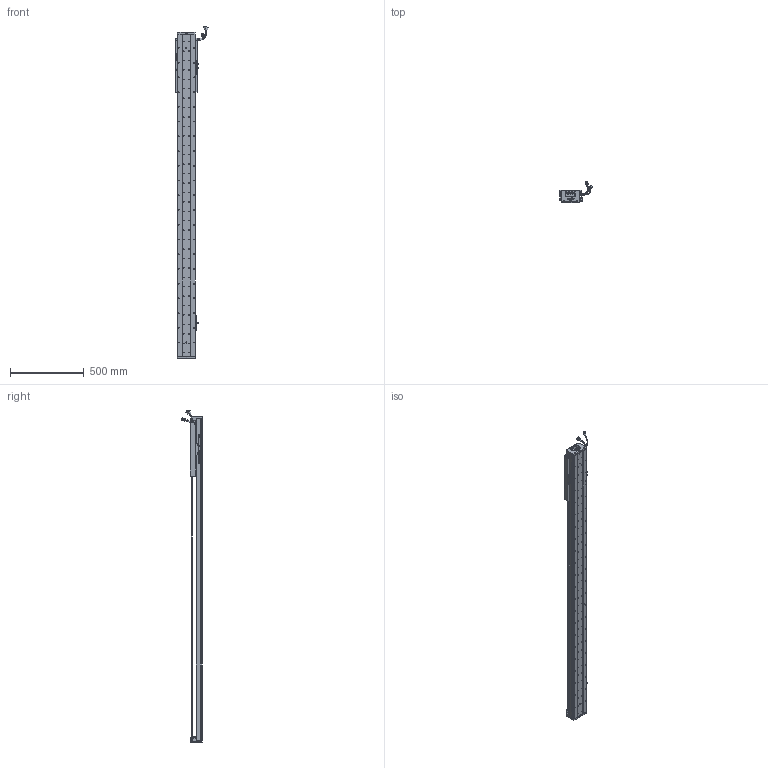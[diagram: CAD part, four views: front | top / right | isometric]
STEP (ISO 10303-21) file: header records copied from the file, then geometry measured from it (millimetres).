
FILE_DESCRIPTION (( 'STEP AP203' ), '1' );
FILE_NAME ('Z5-RY120D-1-L500-B-K.SLDASM_1750.step', '2021-05-17T06:23:48', ( '盈信电脑' ), ( '东莞市道滘镇水果街19号' ), 'SwSTEP 2.0', 'SolidWorks 2016', '' );
FILE_SCHEMA (( 'CONFIG_CONTROL_DESIGN' ));
Length unit declared in the file: millimetre
Products named in the file (37): SCALE-Part-1; SHIELDPLATE; SCREW-M1.6; SEAL; SCALE-Part-2; RY100FB-遵嫖萇覜茼え; 覜茼ん672; PSLH080_PSLF2; HOLDER0; Z-RY120D詩湍奻揤裔; COVER; SCREW-M1.7-1; HARNESS-Part-2; Z5-RY120D-1-L500-B-K.SLDASM_1750; COVER-Part-1; Z-120詩湍傷裔啣; 140蚥薯蝶輸; PBU_SHEET; Z5-RY120铝滑块（21款）; Z5-RY120-L500詩湍100mm遵_1750; HARNESS-Part-1; 120-Z-臏賑輸盄裔(21遴); HARNESS; SEAL-Part-1; LABEL-Part-1; 672嫖萇羲壽假蚾釱; Z-RY120D詩湍狟揤裔; 080黍杅芛假蚾釱21遴; 榋妏寠巭燃_暯_M2_2; LABEL; SCREW-M1.6-2; Z5-RY120-500-倰第菁釱_1750; SCALE; SCREW-M1.6-1; 140雄赽晤鎢ん堤盄; SCREW-M1.7; SCREW-M1.6-3
Assembly tree (43 placements, depth 4):
  Z5-RY120D-1-L500-B-K.SLDASM_1750
    Z5-RY120-500-倰第菁釱_1750
    覜茼ん672  x3
    672嫖萇羲壽假蚾釱  x2
    Z5-RY120铝滑块（21款）
    PSLH080_PSLF2
      SCALE
        SCALE-Part-1
        SCALE-Part-2
      HARNESS
        HARNESS-Part-1
        HARNESS-Part-2
      LABEL
        LABEL-Part-1
      COVER
        COVER-Part-1
      SEAL
        SEAL-Part-1
      榋妏寠巭燃_暯_M2_2
      SHIELDPLATE
      SCREW-M1.7
      SCREW-M1.7-1
      PBU_SHEET
      SCREW-M1.6
      SCREW-M1.6-1
      SCREW-M1.6-2
      SCREW-M1.6-3
      HOLDER0
    080黍杅芛假蚾釱21遴
    120-Z-臏賑輸盄裔(21遴)
    140雄赽晤鎢ん堤盄
    140蚥薯蝶輸  x2
    RY100FB-遵嫖萇覜茼え
    Z-120詩湍傷裔啣  x2
    Z-RY120D詩湍奻揤裔  x2
    Z-RY120D詩湍狟揤裔  x2
    Z5-RY120-L500詩湍100mm遵_1750
Bounding box: 222.88 x 140.94 x 2253.99 mm (x, y, z)
Volume: 5774617.3 mm3; surface area: 1941694.6 mm2
Topology: 38 solids, 38 shells, 3489 faces, 9789 edges, 6178 vertices
Faces by surface type: cylinder 1791, plane 1218, cone 358, torus 69, bspline 53
Entity records: 113916 total; most frequent: CARTESIAN_POINT 33537, ORIENTED_EDGE 16386, DIRECTION 15389, EDGE_CURVE 8193, AXIS2_PLACEMENT_3D 5704, VERTEX_POINT 5298, VECTOR 3981, LINE 3981
